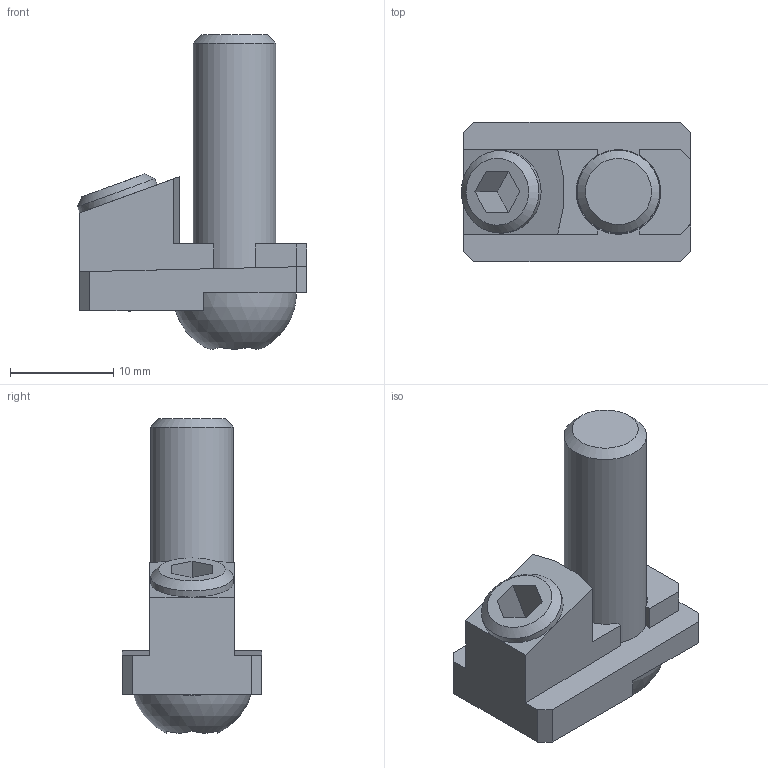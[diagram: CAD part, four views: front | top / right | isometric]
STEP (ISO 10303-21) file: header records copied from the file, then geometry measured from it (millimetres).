
FILE_DESCRIPTION((''),'2;1');
FILE_NAME('C:\Documents and Settings\Administrator\My Documents\Andys Backup Data\STEP LIBRARIES\MINITEC STEP LIBRARIES\30 SERIES\21.0014 POWER-LOCK 30.stp','2012-02-16T11:19:47',('Administrator'),(''),'Autodesk Inventor 2009','Autodesk Inventor 2009','');
FILE_SCHEMA(('AUTOMOTIVE_DESIGN { 1 0 10303 214 1 1 1 1 }'));
Length unit declared in the file: millimetre
Products named in the file (1): 21.0014 POWER-LOCK 30
Bounding box: 22.22 x 13.5 x 30.46 mm (x, y, z)
Volume: 3001.5 mm3; surface area: 2181 mm2
Topology: 1 solids, 1 shells, 65 faces, 180 edges, 118 vertices
Faces by surface type: plane 53, cylinder 8, cone 3, sphere 1
Full cylindrical faces by diameter (mm): 8 x2, 8.2 x1
Entity records: 2128 total; most frequent: CARTESIAN_POINT 355, DIRECTION 339, ORIENTED_EDGE 338, EDGE_CURVE 169, VECTOR 127, LINE 127, VERTEX_POINT 114, AXIS2_PLACEMENT_3D 106
